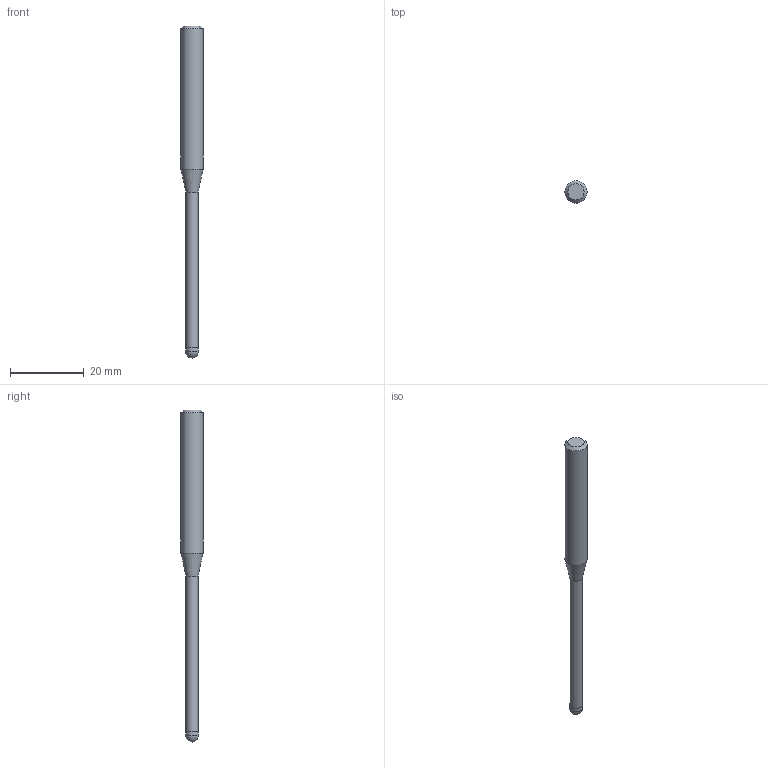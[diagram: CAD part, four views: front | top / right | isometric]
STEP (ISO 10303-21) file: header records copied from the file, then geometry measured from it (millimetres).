
FILE_DESCRIPTION((''),'2;1');
FILE_NAME('C:\Users\nsx150\AppData\Local\Temp\Mastercam 2021\ARV7HD45SN\TEMP.step','2023-06-13T16:38:53',(''),(''),'STEP Write','Mastercam 2021 ... CNC Software, Inc.','');
FILE_SCHEMA(('AUTOMOTIVE_DESIGN'));
Length unit declared in the file: millimetre
Products named in the file (1): None
Bounding box: 6 x 6 x 90 mm (x, y, z)
Volume: 1593.7 mm3; surface area: 1336.3 mm2
Topology: 2 solids, 2 shells, 9 faces, 14 edges, 8 vertices
Faces by surface type: plane 3, cylinder 3, cone 2, sphere 1
Full cylindrical faces by diameter (mm): 3.35 x1, 3.5 x1, 6 x1
Entity records: 211 total; most frequent: DIRECTION 36, CARTESIAN_POINT 25, AXIS2_PLACEMENT_3D 18, ORIENTED_EDGE 14, EDGE_LOOP 14, STYLED_ITEM 12, ADVANCED_FACE 9, FACE_BOUND 8
